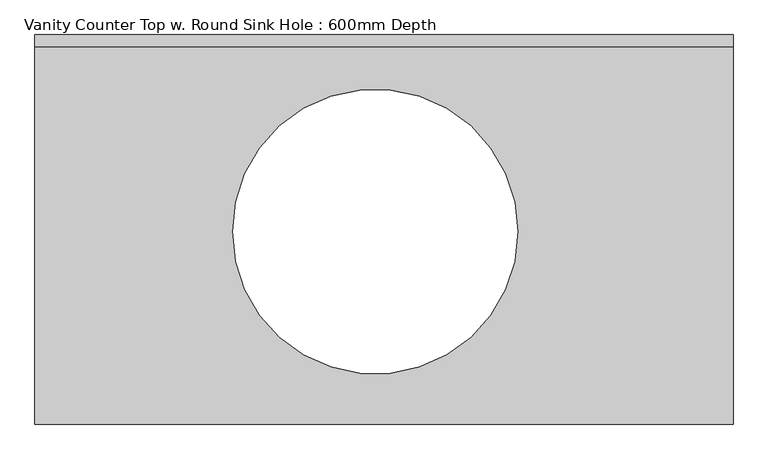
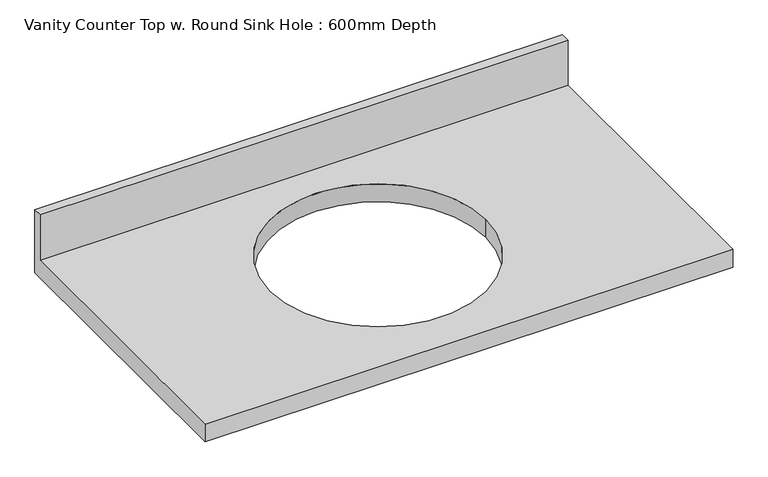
"""IFC4 building model written with IfcOpenShell, lengths in millimetres: furniture geometry, Vanity Counter Top w. Round Sink Hole : 600mm Depth."""

from ifc_helpers import new_model, si_unit, frame, origin, place, context, project, spatial, polyline, circle_curve, source, transform, mapped, element, save
from ifc_brep_helpers import plane_surface, revolved_surface, advanced_brep


def vanity_counter_top_w_round_sink_hole_600mm_depth_d806985c(model_context):
    return source(origin(), model_context, "Body", "AdvancedBrep", [
        advanced_brep(
        [(-1327.4622951, 0.0, 851.6), (-1327.4622951, -19.05, 851.6), (-207.4622951, -19.05, 851.6), (-207.4622951, 0.0, 851.6), (-1327.4622951, 0.0, 710.0), (-1327.4622951, -625.0, 710.0), (-1327.4622951, -625.0, 750.0), (-1327.4622951, -19.05, 750.0), (-207.4622951, -19.05, 750.0), (-207.4622951, -625.0, 750.0), (-207.4622951, -625.0, 710.0), (-207.4622951, 0.0, 710.0), (-552.9907343, -316.0, 750.0), (-552.9907343, -316.0, 710.0), (-1010.3907343, -316.0, 710.0), (-1010.3907343, -316.0, 750.0)],
        [
            (0, 1),
            (1, 2),
            (2, 3),
            (3, 0),
            (0, 4),
            (4, 5),
            (5, 6),
            (6, 7),
            (7, 1),
            (7, 8),
            (8, 2),
            (8, 9),
            (9, 10),
            (10, 11),
            (11, 3),
            (11, 4),
            (12, 13),
            (13, 14, circle_curve(frame((-781.6907343, -316.0, 710.0), z_axis=(0.0, 0.0, -1.0), x_axis=(1.0, 0.0, 0.0)), 228.7)),
            (14, 15),
            (15, 12, circle_curve(frame((-781.6907343, -316.0, 750.0), z_axis=(0.0, 0.0, 1.0), x_axis=(1.0, 0.0, 0.0)), 228.7)),
            (12, 15, circle_curve(frame((-781.6907343, -316.0, 750.0), z_axis=(0.0, 0.0, 1.0), x_axis=(1.0, 0.0, 0.0)), 228.7)),
            (14, 13, circle_curve(frame((-781.6907343, -316.0, 710.0), z_axis=(0.0, 0.0, -1.0), x_axis=(1.0, 0.0, 0.0)), 228.7)),
            (6, 9),
            (10, 5),
        ],
        [
            plane_surface(frame((-1327.4622951, 0.0, 851.6), z_axis=(0.0, 0.0, 1.0), x_axis=(0.0, -1.0, 0.0))),
            plane_surface(frame((-1327.4622951, 0.0, 851.6), z_axis=(-1.0, 0.0, 0.0), x_axis=(0.0, 0.0, -1.0))),
            plane_surface(frame((-1327.4622951, -19.05, 851.6), z_axis=(0.0, -1.0, 0.0), x_axis=(0.0, 0.0, -1.0))),
            plane_surface(frame((-207.4622951, -19.05, 851.6), z_axis=(1.0, 0.0, 0.0), x_axis=(0.0, 0.0, -1.0))),
            plane_surface(frame((-207.4622951, 0.0, 851.6), z_axis=(0.0, 1.0, 0.0), x_axis=(0.0, 0.0, -1.0))),
            revolved_surface(polyline([(-552.9907343, -316.0, 750.0), (-552.9907343, -316.0, 710.0)]), (-781.6907343, -316.0, 710.0), (0.0, 0.0, 1.0)),
            plane_surface(frame((-1327.4622951, 0.0, 750.0), z_axis=(0.0, 0.0, 1.0), x_axis=(-1.0, 0.0, 0.0))),
            plane_surface(frame((-1327.4622951, 0.0, 710.0), z_axis=(0.0, 0.0, -1.0), x_axis=(1.0, 0.0, 0.0))),
            plane_surface(frame((-1327.4622951, -625.0, 750.0), z_axis=(0.0, -1.0, 0.0), x_axis=(0.0, 0.0, -1.0))),
        ],
        [
            (0, [[1, 2, 3, 4]]),
            (1, [[-1, 5, 6, 7, 8, 9]]),
            (2, [[-2, -9, 10, 11]]),
            (3, [[-3, -11, 12, 13, 14, 15]]),
            (4, [[-4, -15, 16, -5]]),
            (5, [[17, 18, 19, 20]]),
            (5, [[-17, 21, -19, 22]]),
            (6, [[23, -12, -10, -8], [-20, -21]]),
            (7, [[-14, 24, -6, -16], [-18, -22]]),
            (8, [[-23, -7, -24, -13]]),
        ],
    ),
    ])


if __name__ == "__main__":
    model = new_model("IFC4")
    model_context = context("Model", 3, world=origin())
    ifc_project = project(units=[si_unit("LENGTHUNIT", "METRE", prefix="MILLI")], contexts=[model_context])
    site = spatial("IfcSite", under=ifc_project)
    building = spatial("IfcBuilding", under=site)
    placement = place(None, origin())
    vanity_counter_top_w_round_sink_hole_600mm_depth_shape = vanity_counter_top_w_round_sink_hole_600mm_depth_d806985c(model_context)
    element("IfcFurniture", 1, ObjectType="Vanity Counter Top w. Round Sink Hole : 600mm Depth", at=placement, inside=building, context=model_context, shape_type="MappedRepresentation", body=[
        mapped(vanity_counter_top_w_round_sink_hole_600mm_depth_shape, transform((0.0, 0.0, 0.0), x_axis=(1.0, 0.0, 0.0), y_axis=(0.0, 1.0, 0.0), z_axis=(0.0, 0.0, 1.0))),
    ])
    save(model, "model.ifc")
